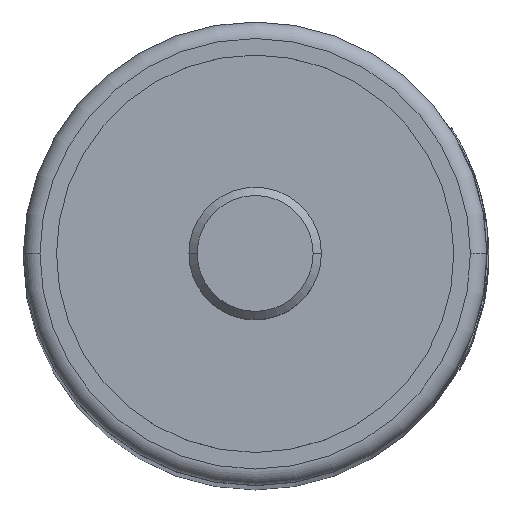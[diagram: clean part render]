
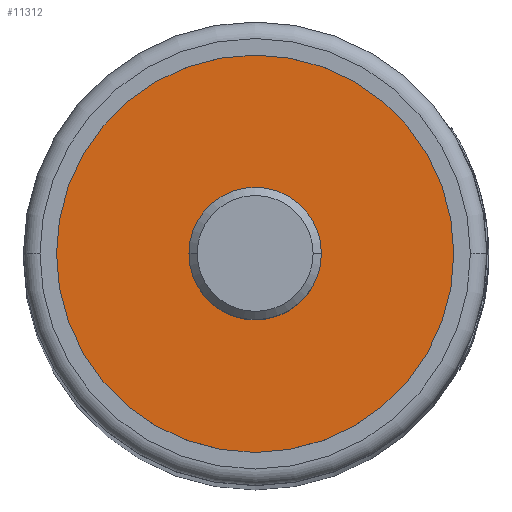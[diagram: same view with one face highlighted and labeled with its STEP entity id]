
A CAD part, top view. The second image highlights one B-rep face of the part: STEP entity #11312.
In plain terms, the highlighted planar face has unit normal (0, 0, 1).
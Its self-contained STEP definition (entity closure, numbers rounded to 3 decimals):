
#5 = EDGE_LOOP ( 'NONE', ( #7787, #13351 ) ) ;
#54 = FACE_OUTER_BOUND ( 'NONE', #5, .T. ) ;
#638 = VERTEX_POINT ( 'NONE', #11048 ) ;
#1264 = ORIENTED_EDGE ( 'NONE', *, *, #2411, .F. ) ;
#1475 = CIRCLE ( 'NONE', #17941, 4. ) ;
#2164 = AXIS2_PLACEMENT_3D ( 'NONE', #21010, #17783, #9638 ) ;
#2411 = EDGE_CURVE ( 'NONE', #638, #9227, #1475, .T. ) ;
#3548 = DIRECTION ( 'NONE',  ( 0., 0., 1. ) ) ;
#4166 = DIRECTION ( 'NONE',  ( 0., 0., 1. ) ) ;
#4294 = VERTEX_POINT ( 'NONE', #8647 ) ;
#4385 = FACE_BOUND ( 'NONE', #13581, .T. ) ;
#5173 = AXIS2_PLACEMENT_3D ( 'NONE', #13726, #15386, #17012 ) ;
#5179 = CARTESIAN_POINT ( 'NONE',  ( 0., 0., 155. ) ) ;
#5315 = ORIENTED_EDGE ( 'NONE', *, *, #19595, .F. ) ;
#6785 = DIRECTION ( 'NONE',  ( 0., 0., 1. ) ) ;
#7787 = ORIENTED_EDGE ( 'NONE', *, *, #16873, .T. ) ;
#8647 = CARTESIAN_POINT ( 'NONE',  ( 12., 0., 155. ) ) ;
#8696 = DIRECTION ( 'NONE',  ( 1., 0., 0. ) ) ;
#8769 = VERTEX_POINT ( 'NONE', #8826 ) ;
#8826 = CARTESIAN_POINT ( 'NONE',  ( -12., 0., 155. ) ) ;
#8968 = CIRCLE ( 'NONE', #19151, 12. ) ;
#9158 = CARTESIAN_POINT ( 'NONE',  ( 4., 0., 155. ) ) ;
#9227 = VERTEX_POINT ( 'NONE', #9158 ) ;
#9638 = DIRECTION ( 'NONE',  ( 1., 0., 0. ) ) ;
#9992 = DIRECTION ( 'NONE',  ( 1., 0., 0. ) ) ;
#11048 = CARTESIAN_POINT ( 'NONE',  ( -4., 0., 155. ) ) ;
#11312 = ADVANCED_FACE ( 'NONE', ( #4385, #54 ), #21151, .T. ) ;
#13351 = ORIENTED_EDGE ( 'NONE', *, *, #15716, .T. ) ;
#13581 = EDGE_LOOP ( 'NONE', ( #1264, #5315 ) ) ;
#13726 = CARTESIAN_POINT ( 'NONE',  ( 0., 0., 155. ) ) ;
#14541 = AXIS2_PLACEMENT_3D ( 'NONE', #19795, #6785, #9992 ) ;
#15386 = DIRECTION ( 'NONE',  ( 0., 0., 1. ) ) ;
#15716 = EDGE_CURVE ( 'NONE', #4294, #8769, #8968, .T. ) ;
#16257 = CIRCLE ( 'NONE', #5173, 12. ) ;
#16873 = EDGE_CURVE ( 'NONE', #8769, #4294, #16257, .T. ) ;
#17012 = DIRECTION ( 'NONE',  ( 1., 0., 0. ) ) ;
#17345 = CIRCLE ( 'NONE', #14541, 4. ) ;
#17783 = DIRECTION ( 'NONE',  ( 0., 0., 1. ) ) ;
#17941 = AXIS2_PLACEMENT_3D ( 'NONE', #20545, #4166, #18902 ) ;
#18902 = DIRECTION ( 'NONE',  ( 1., 0., 0. ) ) ;
#19151 = AXIS2_PLACEMENT_3D ( 'NONE', #5179, #3548, #8696 ) ;
#19595 = EDGE_CURVE ( 'NONE', #9227, #638, #17345, .T. ) ;
#19795 = CARTESIAN_POINT ( 'NONE',  ( 0., 0., 155. ) ) ;
#20545 = CARTESIAN_POINT ( 'NONE',  ( 0., 0., 155. ) ) ;
#21010 = CARTESIAN_POINT ( 'NONE',  ( 0., 0., 155. ) ) ;
#21151 = PLANE ( 'NONE',  #2164 ) ;
